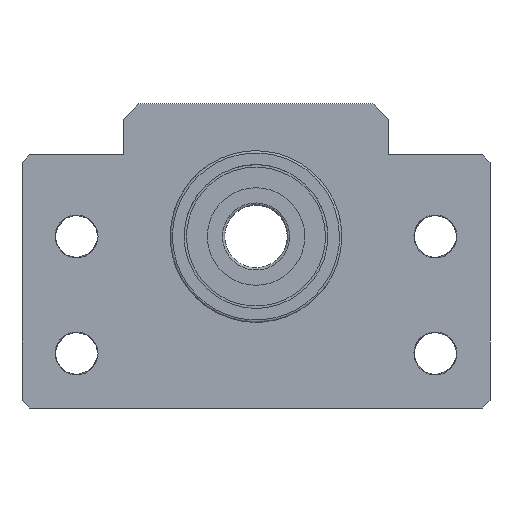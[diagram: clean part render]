
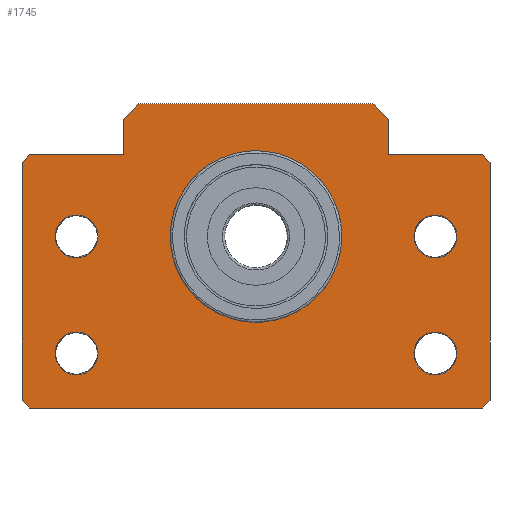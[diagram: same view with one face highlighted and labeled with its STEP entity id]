
A CAD part, front view. The second image highlights one B-rep face of the part: STEP entity #1745.
In plain terms, the highlighted free-form (B-spline) face has degree [1, 1] with [2, 2] control points.
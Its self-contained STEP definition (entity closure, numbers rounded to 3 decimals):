
#1022=CARTESIAN_POINT('',(30.,-20.98,0.));
#1023=VERTEX_POINT('',#1022);
#1024=CARTESIAN_POINT('',(28.98,-22.,0.));
#1025=VERTEX_POINT('',#1024);
#1026=CARTESIAN_POINT('',(30.,-20.98,0.));
#1027=CARTESIAN_POINT('',(28.98,-22.,0.));
#1028=B_SPLINE_CURVE_WITH_KNOTS('',1,(#1026,#1027),.POLYLINE_FORM.,.F.,.U.,(2,2),(0.,1.),.UNSPECIFIED.);
#1029=EDGE_CURVE('',#1023,#1025,#1028,.T.);
#1058=CARTESIAN_POINT('',(30.,9.48,0.));
#1059=VERTEX_POINT('',#1058);
#1060=CARTESIAN_POINT('',(30.,9.48,0.));
#1061=CARTESIAN_POINT('',(30.,-20.98,0.));
#1062=B_SPLINE_CURVE_WITH_KNOTS('',1,(#1060,#1061),.POLYLINE_FORM.,.F.,.U.,(2,2),(0.,1.),.UNSPECIFIED.);
#1063=EDGE_CURVE('',#1059,#1023,#1062,.T.);
#1086=CARTESIAN_POINT('',(-28.98,-22.,0.));
#1087=VERTEX_POINT('',#1086);
#1088=CARTESIAN_POINT('',(28.98,-22.,0.));
#1089=CARTESIAN_POINT('',(-28.98,-22.,0.));
#1090=B_SPLINE_CURVE_WITH_KNOTS('',1,(#1088,#1089),.POLYLINE_FORM.,.F.,.U.,(2,2),(0.,1.),.UNSPECIFIED.);
#1091=EDGE_CURVE('',#1025,#1087,#1090,.T.);
#1146=CARTESIAN_POINT('',(-30.,-20.98,0.));
#1147=VERTEX_POINT('',#1146);
#1148=CARTESIAN_POINT('',(-30.,9.48,0.));
#1149=VERTEX_POINT('',#1148);
#1150=CARTESIAN_POINT('',(-30.,-20.98,0.));
#1151=CARTESIAN_POINT('',(-30.,9.48,0.));
#1152=B_SPLINE_CURVE_WITH_KNOTS('',1,(#1150,#1151),.POLYLINE_FORM.,.F.,.U.,(2,2),(0.,1.),.UNSPECIFIED.);
#1153=EDGE_CURVE('',#1147,#1149,#1152,.T.);
#1182=CARTESIAN_POINT('',(-28.98,-22.,0.));
#1183=CARTESIAN_POINT('',(-30.,-20.98,0.));
#1184=B_SPLINE_CURVE_WITH_KNOTS('',1,(#1182,#1183),.POLYLINE_FORM.,.F.,.U.,(2,2),(0.,1.),.UNSPECIFIED.);
#1185=EDGE_CURVE('',#1087,#1147,#1184,.T.);
#1202=CARTESIAN_POINT('',(28.98,10.5,0.));
#1203=VERTEX_POINT('',#1202);
#1204=CARTESIAN_POINT('',(28.98,10.5,0.));
#1205=CARTESIAN_POINT('',(30.,9.48,0.));
#1206=B_SPLINE_CURVE_WITH_KNOTS('',1,(#1204,#1205),.POLYLINE_FORM.,.F.,.U.,(2,2),(0.,1.),.UNSPECIFIED.);
#1207=EDGE_CURVE('',#1203,#1059,#1206,.T.);
#1230=CARTESIAN_POINT('',(17.,10.5,0.));
#1231=VERTEX_POINT('',#1230);
#1232=CARTESIAN_POINT('',(17.,10.5,0.));
#1233=CARTESIAN_POINT('',(28.98,10.5,0.));
#1234=B_SPLINE_CURVE_WITH_KNOTS('',1,(#1232,#1233),.POLYLINE_FORM.,.F.,.U.,(2,2),(0.,1.),.UNSPECIFIED.);
#1235=EDGE_CURVE('',#1231,#1203,#1234,.T.);
#1274=CARTESIAN_POINT('',(17.,15.,0.));
#1275=VERTEX_POINT('',#1274);
#1276=CARTESIAN_POINT('',(17.,15.,0.));
#1277=CARTESIAN_POINT('',(17.,10.5,0.));
#1278=B_SPLINE_CURVE_WITH_KNOTS('',1,(#1276,#1277),.POLYLINE_FORM.,.F.,.U.,(2,2),(0.,1.),.UNSPECIFIED.);
#1279=EDGE_CURVE('',#1275,#1231,#1278,.T.);
#1302=CARTESIAN_POINT('',(15.,17.,0.));
#1303=VERTEX_POINT('',#1302);
#1304=CARTESIAN_POINT('',(15.,17.,0.));
#1305=CARTESIAN_POINT('',(17.,15.,0.));
#1306=B_SPLINE_CURVE_WITH_KNOTS('',1,(#1304,#1305),.POLYLINE_FORM.,.F.,.U.,(2,2),(0.,1.),.UNSPECIFIED.);
#1307=EDGE_CURVE('',#1303,#1275,#1306,.T.);
#1330=CARTESIAN_POINT('',(-15.,17.,0.));
#1331=VERTEX_POINT('',#1330);
#1332=CARTESIAN_POINT('',(-15.,17.,0.));
#1333=CARTESIAN_POINT('',(15.,17.,0.));
#1334=B_SPLINE_CURVE_WITH_KNOTS('',1,(#1332,#1333),.POLYLINE_FORM.,.F.,.U.,(2,2),(0.,1.),.UNSPECIFIED.);
#1335=EDGE_CURVE('',#1331,#1303,#1334,.T.);
#1358=CARTESIAN_POINT('',(-17.,15.,0.));
#1359=VERTEX_POINT('',#1358);
#1360=CARTESIAN_POINT('',(-17.,15.,0.));
#1361=CARTESIAN_POINT('',(-15.,17.,0.));
#1362=B_SPLINE_CURVE_WITH_KNOTS('',1,(#1360,#1361),.POLYLINE_FORM.,.F.,.U.,(2,2),(0.,1.),.UNSPECIFIED.);
#1363=EDGE_CURVE('',#1359,#1331,#1362,.T.);
#1386=CARTESIAN_POINT('',(-17.,10.5,0.));
#1387=VERTEX_POINT('',#1386);
#1388=CARTESIAN_POINT('',(-17.,10.5,0.));
#1389=CARTESIAN_POINT('',(-17.,15.,0.));
#1390=B_SPLINE_CURVE_WITH_KNOTS('',1,(#1388,#1389),.POLYLINE_FORM.,.F.,.U.,(2,2),(0.,1.),.UNSPECIFIED.);
#1391=EDGE_CURVE('',#1387,#1359,#1390,.T.);
#1414=CARTESIAN_POINT('',(-28.98,10.5,0.));
#1415=VERTEX_POINT('',#1414);
#1416=CARTESIAN_POINT('',(-28.98,10.5,0.));
#1417=CARTESIAN_POINT('',(-17.,10.5,0.));
#1418=B_SPLINE_CURVE_WITH_KNOTS('',1,(#1416,#1417),.POLYLINE_FORM.,.F.,.U.,(2,2),(0.,1.),.UNSPECIFIED.);
#1419=EDGE_CURVE('',#1415,#1387,#1418,.T.);
#1458=CARTESIAN_POINT('',(-30.,9.48,0.));
#1459=CARTESIAN_POINT('',(-28.98,10.5,0.));
#1460=B_SPLINE_CURVE_WITH_KNOTS('',1,(#1458,#1459),.POLYLINE_FORM.,.F.,.U.,(2,2),(0.,1.),.UNSPECIFIED.);
#1461=EDGE_CURVE('',#1149,#1415,#1460,.T.);
#1642=CARTESIAN_POINT('',(11.,0.,0.));
#1643=VERTEX_POINT('',#1642);
#1649=CARTESIAN_POINT('',(11.,0.,0.));
#1650=CARTESIAN_POINT('',(11.,-11.,0.));
#1651=CARTESIAN_POINT('',(0.,-11.,0.));
#1652=CARTESIAN_POINT('',(-11.,-11.,0.));
#1653=CARTESIAN_POINT('',(-11.,0.,0.));
#1654=CARTESIAN_POINT('',(-11.,11.,0.));
#1655=CARTESIAN_POINT('',(0.,11.,0.));
#1656=CARTESIAN_POINT('',(11.,11.,0.));
#1657=CARTESIAN_POINT('',(11.,0.,0.));
#1658=(BOUNDED_CURVE()B_SPLINE_CURVE(2,(#1649,#1650,#1651,#1652,#1653,#1654,#1655,#1656,#1657),.UNSPECIFIED.,.T.,.U.)B_SPLINE_CURVE_WITH_KNOTS((3,2,2,2,3),(0.,0.25,0.5,0.75,1.),.UNSPECIFIED.)CURVE()GEOMETRIC_REPRESENTATION_ITEM()RATIONAL_B_SPLINE_CURVE((1.,0.707,1.,0.707,1.,0.707,1.,0.707,1.))REPRESENTATION_ITEM(''));
#1659=EDGE_CURVE('',#1643,#1643,#1658,.T.);
#1665=CARTESIAN_POINT('',(-74.061,-74.061,0.));
#1666=CARTESIAN_POINT('',(-74.061,74.061,0.));
#1667=CARTESIAN_POINT('',(74.061,-74.061,0.));
#1668=CARTESIAN_POINT('',(74.061,74.061,0.));
#1669=B_SPLINE_SURFACE_WITH_KNOTS('',1,1,((#1665,#1666),(#1667,#1668)),.PLANE_SURF.,.F.,.F.,.U.,(2,2),(2,2),(0.,1.),(0.,1.),.UNSPECIFIED.);
#1670=ORIENTED_EDGE('',*,*,#1153,.F.);
#1671=ORIENTED_EDGE('',*,*,#1185,.F.);
#1672=ORIENTED_EDGE('',*,*,#1091,.F.);
#1673=ORIENTED_EDGE('',*,*,#1029,.F.);
#1674=ORIENTED_EDGE('',*,*,#1063,.F.);
#1675=ORIENTED_EDGE('',*,*,#1207,.F.);
#1676=ORIENTED_EDGE('',*,*,#1235,.F.);
#1677=ORIENTED_EDGE('',*,*,#1279,.F.);
#1678=ORIENTED_EDGE('',*,*,#1307,.F.);
#1679=ORIENTED_EDGE('',*,*,#1335,.F.);
#1680=ORIENTED_EDGE('',*,*,#1363,.F.);
#1681=ORIENTED_EDGE('',*,*,#1391,.F.);
#1682=ORIENTED_EDGE('',*,*,#1419,.F.);
#1683=ORIENTED_EDGE('',*,*,#1461,.F.);
#1684=EDGE_LOOP('',(#1670,#1671,#1672,#1673,#1674,#1675,#1676,#1677,#1678,#1679,#1680,#1681,#1682,#1683));
#1685=FACE_OUTER_BOUND('',#1684,.T.);
#1686=ORIENTED_EDGE('',*,*,#1659,.T.);
#1687=EDGE_LOOP('',(#1686));
#1688=FACE_BOUND('',#1687,.T.);
#1689=CARTESIAN_POINT('',(-20.25,0.,0.));
#1690=VERTEX_POINT('',#1689);
#1691=CARTESIAN_POINT('',(-20.25,0.,0.));
#1692=CARTESIAN_POINT('',(-20.25,4.763,0.));
#1693=CARTESIAN_POINT('',(-24.375,2.382,0.));
#1694=CARTESIAN_POINT('',(-28.5,0.,0.));
#1695=CARTESIAN_POINT('',(-24.375,-2.382,0.));
#1696=CARTESIAN_POINT('',(-20.25,-4.763,0.));
#1697=CARTESIAN_POINT('',(-20.25,0.,0.));
#1698=(BOUNDED_CURVE()B_SPLINE_CURVE(2,(#1691,#1692,#1693,#1694,#1695,#1696,#1697),.CIRCULAR_ARC.,.T.,.U.)B_SPLINE_CURVE_WITH_KNOTS((3,2,2,3),(0.,0.333,0.667,1.),.UNSPECIFIED.)CURVE()GEOMETRIC_REPRESENTATION_ITEM()RATIONAL_B_SPLINE_CURVE((1.,0.5,1.,0.5,1.,0.5,1.))REPRESENTATION_ITEM(''));
#1699=EDGE_CURVE('',#1690,#1690,#1698,.T.);
#1700=ORIENTED_EDGE('',*,*,#1699,.F.);
#1701=EDGE_LOOP('',(#1700));
#1702=FACE_BOUND('',#1701,.T.);
#1703=CARTESIAN_POINT('',(-20.25,-15.,0.));
#1704=VERTEX_POINT('',#1703);
#1705=CARTESIAN_POINT('',(-20.25,-15.,0.));
#1706=CARTESIAN_POINT('',(-20.25,-10.237,0.));
#1707=CARTESIAN_POINT('',(-24.375,-12.618,0.));
#1708=CARTESIAN_POINT('',(-28.5,-15.,0.));
#1709=CARTESIAN_POINT('',(-24.375,-17.382,0.));
#1710=CARTESIAN_POINT('',(-20.25,-19.763,0.));
#1711=CARTESIAN_POINT('',(-20.25,-15.,0.));
#1712=(BOUNDED_CURVE()B_SPLINE_CURVE(2,(#1705,#1706,#1707,#1708,#1709,#1710,#1711),.CIRCULAR_ARC.,.T.,.U.)B_SPLINE_CURVE_WITH_KNOTS((3,2,2,3),(0.,0.333,0.667,1.),.UNSPECIFIED.)CURVE()GEOMETRIC_REPRESENTATION_ITEM()RATIONAL_B_SPLINE_CURVE((1.,0.5,1.,0.5,1.,0.5,1.))REPRESENTATION_ITEM(''));
#1713=EDGE_CURVE('',#1704,#1704,#1712,.T.);
#1714=ORIENTED_EDGE('',*,*,#1713,.F.);
#1715=EDGE_LOOP('',(#1714));
#1716=FACE_BOUND('',#1715,.T.);
#1717=CARTESIAN_POINT('',(25.75,0.,0.));
#1718=VERTEX_POINT('',#1717);
#1719=CARTESIAN_POINT('',(25.75,0.,0.));
#1720=CARTESIAN_POINT('',(25.75,4.763,0.));
#1721=CARTESIAN_POINT('',(21.625,2.382,0.));
#1722=CARTESIAN_POINT('',(17.5,0.,0.));
#1723=CARTESIAN_POINT('',(21.625,-2.382,0.));
#1724=CARTESIAN_POINT('',(25.75,-4.763,0.));
#1725=CARTESIAN_POINT('',(25.75,0.,0.));
#1726=(BOUNDED_CURVE()B_SPLINE_CURVE(2,(#1719,#1720,#1721,#1722,#1723,#1724,#1725),.CIRCULAR_ARC.,.T.,.U.)B_SPLINE_CURVE_WITH_KNOTS((3,2,2,3),(0.,0.333,0.667,1.),.UNSPECIFIED.)CURVE()GEOMETRIC_REPRESENTATION_ITEM()RATIONAL_B_SPLINE_CURVE((1.,0.5,1.,0.5,1.,0.5,1.))REPRESENTATION_ITEM(''));
#1727=EDGE_CURVE('',#1718,#1718,#1726,.T.);
#1728=ORIENTED_EDGE('',*,*,#1727,.F.);
#1729=EDGE_LOOP('',(#1728));
#1730=FACE_BOUND('',#1729,.T.);
#1731=CARTESIAN_POINT('',(25.75,-15.,0.));
#1732=VERTEX_POINT('',#1731);
#1733=CARTESIAN_POINT('',(25.75,-15.,0.));
#1734=CARTESIAN_POINT('',(25.75,-10.237,0.));
#1735=CARTESIAN_POINT('',(21.625,-12.618,0.));
#1736=CARTESIAN_POINT('',(17.5,-15.,0.));
#1737=CARTESIAN_POINT('',(21.625,-17.382,0.));
#1738=CARTESIAN_POINT('',(25.75,-19.763,0.));
#1739=CARTESIAN_POINT('',(25.75,-15.,0.));
#1740=(BOUNDED_CURVE()B_SPLINE_CURVE(2,(#1733,#1734,#1735,#1736,#1737,#1738,#1739),.CIRCULAR_ARC.,.T.,.U.)B_SPLINE_CURVE_WITH_KNOTS((3,2,2,3),(0.,0.333,0.667,1.),.UNSPECIFIED.)CURVE()GEOMETRIC_REPRESENTATION_ITEM()RATIONAL_B_SPLINE_CURVE((1.,0.5,1.,0.5,1.,0.5,1.))REPRESENTATION_ITEM(''));
#1741=EDGE_CURVE('',#1732,#1732,#1740,.T.);
#1742=ORIENTED_EDGE('',*,*,#1741,.F.);
#1743=EDGE_LOOP('',(#1742));
#1744=FACE_BOUND('',#1743,.T.);
#1745=ADVANCED_FACE('',(#1685,#1688,#1702,#1716,#1730,#1744),#1669,.T.);
